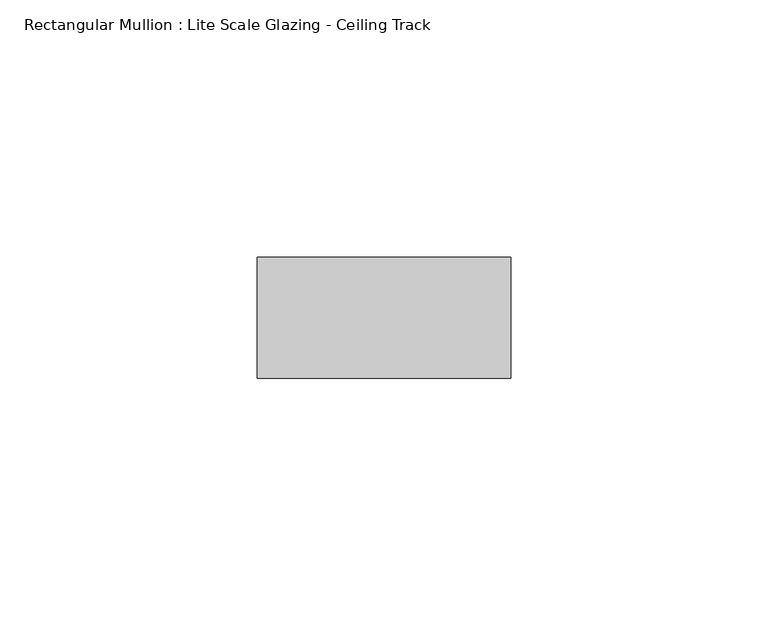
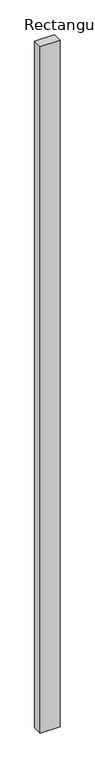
"""IFC4 building model written with IfcOpenShell, lengths in millimetres: member geometry, Rectangular Mullion : Lite Scale Glazing - Ceiling Track."""

import ifcopenshell
import ifcopenshell.guid

model = None  # the IFC model being written
_history = None  # IfcOwnerHistory: only IFC2X3 demands one
_inside = {}  # id of a spatial element -> (the spatial element, [elements in it])
_under = {}  # id of a project, library or spatial element -> (it, [spatial elements below it])
_declared = {}  # id of a project -> (the project, [libraries it declares])
_typed = {}  # id of a type object -> (the type object, [elements of that type])
_made_of = {}  # id of a material, layer set ... -> (it, [elements and type objects made of it])


def new_model(schema):
    """Start an empty IFC model of exactly this schema.

    Asked for "IFC4X3", IfcOpenShell would pick the latest addendum, in which some entities
    have other attributes; the version numbers below select the first issue.
    IFC2X3 requires an IfcOwnerHistory on every rooted entity: one is made here for all.
    """
    global model, _history
    if schema == "IFC4X3":
        model = ifcopenshell.file(schema_version=(4, 3, 0, 0))
    else:
        model = ifcopenshell.file(schema=schema)
    _inside.clear()
    _under.clear()
    _declared.clear()
    _typed.clear()
    _made_of.clear()
    _history = None
    if model.schema == "IFC2X3":
        org = make("IfcOrganization", Name="unknown")
        user = make(
            "IfcPersonAndOrganization",
            ThePerson=make("IfcPerson", FamilyName="unknown"),
            TheOrganization=org,
        )
        app = make(
            "IfcApplication",
            ApplicationDeveloper=org,
            Version="unknown",
            ApplicationFullName="unknown",
            ApplicationIdentifier="unknown",
        )
        _history = make(
            "IfcOwnerHistory",
            OwningUser=user,
            OwningApplication=app,
            ChangeAction="ADDED",
            CreationDate=0,
        )
    return model


def make(cls, **values):
    """One entity of the class cls with the attributes given. An attribute that is None is left unset."""
    return model.create_entity(
        cls, **{name: value for name, value in values.items() if value is not None}
    )


def rooted(cls, **values):
    """An entity with a GlobalId (a new one), such as an element, a storey or a relation."""
    return make(cls, GlobalId=ifcopenshell.guid.new(), OwnerHistory=_history, **values)


def si_unit(unit_type, name, prefix=None):
    """IfcSIUnit, for example si_unit("LENGTHUNIT", "METRE", prefix="MILLI")."""
    return make("IfcSIUnit", UnitType=unit_type, Prefix=prefix, Name=name)


def assignment(units):
    """IfcUnitAssignment: the units of a project."""
    return None if units is None else make("IfcUnitAssignment", Units=units)


def point(xyz):
    """IfcCartesianPoint."""
    return None if xyz is None else make("IfcCartesianPoint", Coordinates=xyz)


def direction(xyz):
    """IfcDirection."""
    return None if xyz is None else make("IfcDirection", DirectionRatios=xyz)


def frame(location, z_axis=None, x_axis=None):
    """IfcAxis2Placement3D, a coordinate frame: its origin and axes. An axis left out is left unset."""
    return make(
        "IfcAxis2Placement3D",
        Location=point(location),
        Axis=direction(z_axis),
        RefDirection=direction(x_axis),
    )


def origin():
    """The frame at (0, 0, 0) with its axes left unset."""
    return frame((0.0, 0.0, 0.0))


def place(relative_to, where):
    """IfcLocalPlacement: puts the frame where relative to a parent placement (None: the world)."""
    return make(
        "IfcLocalPlacement", PlacementRelTo=relative_to, RelativePlacement=where
    )


def context(
    kind, dimensions, precision=None, world=None, true_north=None, identifier=None
):
    """IfcGeometricRepresentationContext, for example the 3D "Model" context."""
    return make(
        "IfcGeometricRepresentationContext",
        ContextIdentifier=identifier,
        ContextType=kind,
        CoordinateSpaceDimension=dimensions,
        Precision=precision,
        WorldCoordinateSystem=world,
        TrueNorth=true_north,
    )


def project(units=None, contexts=None):
    """IfcProject with its units and contexts."""
    return rooted(
        "IfcProject",
        Name="project",
        RepresentationContexts=contexts,
        UnitsInContext=assignment(units),
    )


def spatial(cls, under=None, at=None, **own):
    """A site, building, storey or space (cls), placed at a placement, below another one or the project."""
    s = rooted(cls, ObjectPlacement=at, **own)
    if under is not None:
        _under.setdefault(under.id(), (under, []))[1].append(s)
    return s


def polyline(points):
    """IfcPolyline through the points."""
    return make("IfcPolyline", Points=[point(p) for p in points])


def outline(outer, holes=None, kind="AREA"):
    """IfcArbitraryClosedProfileDef: a profile drawn as a closed curve; with holes, ...WithVoids."""
    if holes is None:
        return make("IfcArbitraryClosedProfileDef", ProfileType=kind, OuterCurve=outer)
    return make(
        "IfcArbitraryProfileDefWithVoids",
        ProfileType=kind,
        OuterCurve=outer,
        InnerCurves=holes,
    )


def extrude(swept, where, along, depth):
    """IfcExtrudedAreaSolid: the profile swept, set in the frame where, extruded along a direction by depth."""
    return make(
        "IfcExtrudedAreaSolid",
        SweptArea=swept,
        Position=where,
        ExtrudedDirection=direction(along),
        Depth=depth,
    )


def shape(context_of_items, identifier, shape_type, items):
    """IfcShapeRepresentation: the items that make up one representation, for example the "Body"."""
    return make(
        "IfcShapeRepresentation",
        ContextOfItems=context_of_items,
        RepresentationIdentifier=identifier,
        RepresentationType=shape_type,
        Items=items,
    )


def source(mapping_origin, context_of_items, identifier, shape_type, items):
    """IfcRepresentationMap: a shape defined once, which mapped items show again and again."""
    return make(
        "IfcRepresentationMap",
        MappingOrigin=mapping_origin,
        MappedRepresentation=shape(context_of_items, identifier, shape_type, items),
    )


def transform(
    local_origin,
    x_axis=None,
    y_axis=None,
    z_axis=None,
    scale=None,
    scale2=None,
    scale3=None,
    uniform=True,
):
    """IfcCartesianTransformationOperator3D, or its non-uniform kind. x_axis, y_axis, z_axis: its Axis1, 2, 3."""
    if uniform:
        return make(
            "IfcCartesianTransformationOperator3D",
            Axis1=direction(x_axis),
            Axis2=direction(y_axis),
            LocalOrigin=point(local_origin),
            Scale=scale,
            Axis3=direction(z_axis),
        )
    return make(
        "IfcCartesianTransformationOperator3DnonUniform",
        Axis1=direction(x_axis),
        Axis2=direction(y_axis),
        LocalOrigin=point(local_origin),
        Scale=scale,
        Axis3=direction(z_axis),
        Scale2=scale2,
        Scale3=scale3,
    )


def mapped(mapping_source, mapping_target):
    """IfcMappedItem: shows the shape of a source again, moved by a transform."""
    return make(
        "IfcMappedItem", MappingSource=mapping_source, MappingTarget=mapping_target
    )


def made_of(thing, what):
    """Note that an element or type object is made of a material, layer set ...; save() writes the relation."""
    if what is not None:
        _made_of.setdefault(what.id(), (what, []))[1].append(thing)
    return thing


def element(
    cls,
    number,
    at=None,
    inside=None,
    cuts=None,
    type_object=None,
    material=None,
    context=None,
    identifier="Body",
    shape_type=None,
    held_by="IfcProductDefinitionShape",
    body=None,
    shapes=None,
    **own,
):
    """One element of the class cls, such as IfcWall. Its Tag is "e" and its number.

    at: its placement. inside: the storey or other place that contains it. cuts: it is an
    opening in that element (IfcRelVoidsElement). A single representation is given by context,
    identifier, shape_type and body (its items); several are given by shapes. held_by: the class
    of the entity that holds the representations. save() writes the other relations.
    """
    e = rooted(cls, Tag="e%d" % number, ObjectPlacement=at, **own)
    if body is not None:
        shapes = [shape(context, identifier, shape_type, body)]
    if shapes is not None:
        e.Representation = make(held_by, Representations=shapes)
    if inside is not None:
        _inside.setdefault(inside.id(), (inside, []))[1].append(e)
    if cuts is not None:
        rooted(
            "IfcRelVoidsElement", RelatingBuildingElement=cuts, RelatedOpeningElement=e
        )
    if type_object is not None:
        _typed.setdefault(type_object.id(), (type_object, []))[1].append(e)
    return made_of(e, material)


def aggregate(whole, parts):
    """IfcRelAggregates: a whole, such as a stair, and the parts it consists of."""
    return rooted("IfcRelAggregates", RelatingObject=whole, RelatedObjects=parts)


def save(model, path):
    """Write the relations noted so far, then the file.

    IfcRelAggregates (storeys below a building ...), IfcRelContainedInSpatialStructure (elements
    in a storey), IfcRelDefinesByType, IfcRelAssociatesMaterial and IfcRelDeclares: one each for
    every whole, place, type object, material and project.
    """
    for whole, parts in _under.values():
        aggregate(whole, parts)
    for where, things in _inside.values():
        rooted(
            "IfcRelContainedInSpatialStructure",
            RelatedElements=things,
            RelatingStructure=where,
        )
    for kind, things in _typed.values():
        rooted("IfcRelDefinesByType", RelatedObjects=things, RelatingType=kind)
    for what, things in _made_of.values():
        rooted("IfcRelAssociatesMaterial", RelatedObjects=things, RelatingMaterial=what)
    for by, libraries in _declared.values():
        rooted("IfcRelDeclares", RelatingContext=by, RelatedDefinitions=libraries)
    model.write(path)


def rectangular_mullion_lite_scale_glazing_ceiling_track_78d2ef61(model_context):
    return source(origin(), model_context, "Body", "SweptSolid", [
        extrude(outline(polyline([(-49.276, -11.7474999), (-49.276, 11.7474999), (0.0, 11.7474999), (0.0, -11.7474999), (-49.276, -11.7474999)])), frame((0.0, 0.0, -1803.4), z_axis=(0.0, 0.0, 1.0), x_axis=(1.0, 0.0, 0.0)), (0.0, 0.0, 1.0), 1803.4),
    ])


if __name__ == "__main__":
    model = new_model("IFC4")
    model_context = context("Model", 3, world=origin())
    ifc_project = project(units=[si_unit("LENGTHUNIT", "METRE", prefix="MILLI")], contexts=[model_context])
    site = spatial("IfcSite", under=ifc_project)
    building = spatial("IfcBuilding", under=site)
    placement = place(None, origin())
    rectangular_mullion_lite_scale_glazing_ceiling_track_shape = rectangular_mullion_lite_scale_glazing_ceiling_track_78d2ef61(model_context)
    element("IfcMember", 1, ObjectType="Rectangular Mullion : Lite Scale Glazing - Ceiling Track", at=placement, inside=building, context=model_context, shape_type="MappedRepresentation", body=[
        mapped(rectangular_mullion_lite_scale_glazing_ceiling_track_shape, transform((0.0, 0.0, 0.0), x_axis=(1.0, 0.0, 0.0), y_axis=(0.0, 1.0, 0.0), z_axis=(0.0, 0.0, 1.0))),
    ])
    save(model, "model.ifc")
